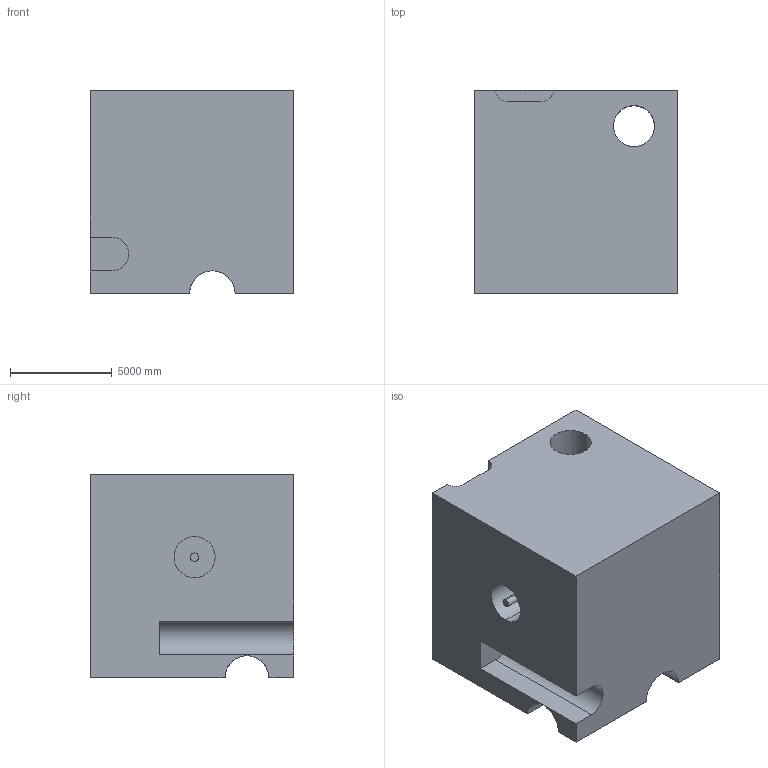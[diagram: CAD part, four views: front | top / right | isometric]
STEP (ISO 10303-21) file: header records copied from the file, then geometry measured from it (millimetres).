
FILE_DESCRIPTION (( 'STEP AP203' ), '1' );
FILE_NAME ('1704.STEP', '2022-08-19T11:53:30', ( 'user' ), ( '' ), 'SwSTEP 2.0', 'SolidWorks 2021', '' );
FILE_SCHEMA (( 'CONFIG_CONTROL_DESIGN' ));
Length unit declared in the file: centimetre
Products named in the file (1): 1704
Bounding box: 10000 x 10000 x 10000 mm (x, y, z)
Volume: 876403835004.7 mm3; surface area: 772994265.2 mm2
Topology: 1 solids, 1 shells, 43 faces, 120 edges, 80 vertices
Faces by surface type: plane 22, cylinder 21
Entity records: 2617 total; most frequent: CARTESIAN_POINT 1421, ORIENTED_EDGE 240, DIRECTION 224, EDGE_CURVE 120, VERTEX_POINT 80, AXIS2_PLACEMENT_3D 77, VECTOR 70, LINE 70
